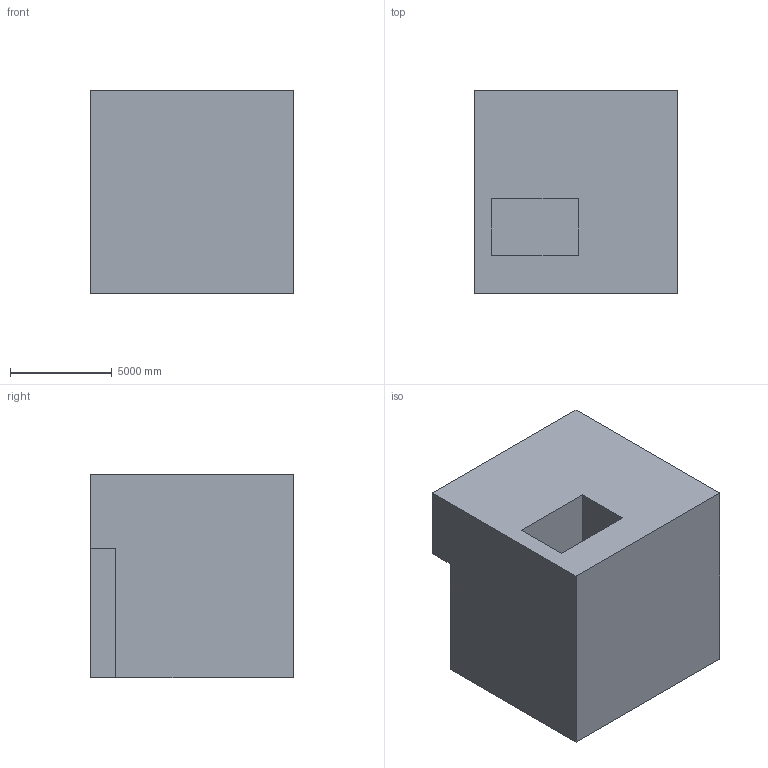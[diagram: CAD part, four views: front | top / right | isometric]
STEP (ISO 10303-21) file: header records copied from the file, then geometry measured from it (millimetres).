
FILE_DESCRIPTION (( 'STEP AP203' ), '1' );
FILE_NAME ('140.STEP', '2022-07-28T13:43:08', ( 'user' ), ( '' ), 'SwSTEP 2.0', 'SolidWorks 2021', '' );
FILE_SCHEMA (( 'CONFIG_CONTROL_DESIGN' ));
Length unit declared in the file: centimetre
Products named in the file (1): 140
Bounding box: 10000 x 10000 x 10000 mm (x, y, z)
Volume: 927144724822.2 mm3; surface area: 655908825.6 mm2
Topology: 1 solids, 1 shells, 14 faces, 33 edges, 22 vertices
Faces by surface type: plane 14
Entity records: 474 total; most frequent: CARTESIAN_POINT 70, ORIENTED_EDGE 66, DIRECTION 63, LINE 33, EDGE_CURVE 33, VECTOR 33, VERTEX_POINT 22, AXIS2_PLACEMENT_3D 15
